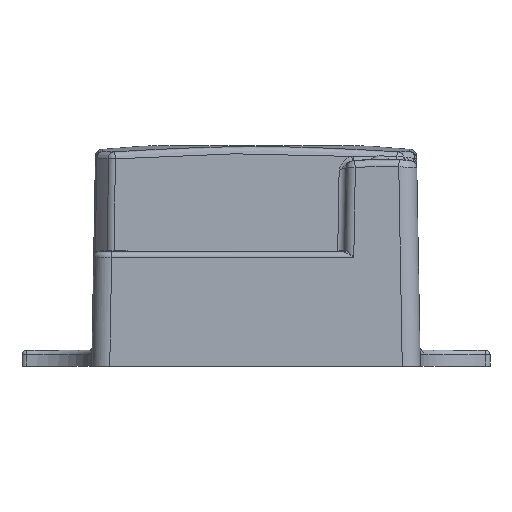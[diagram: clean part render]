
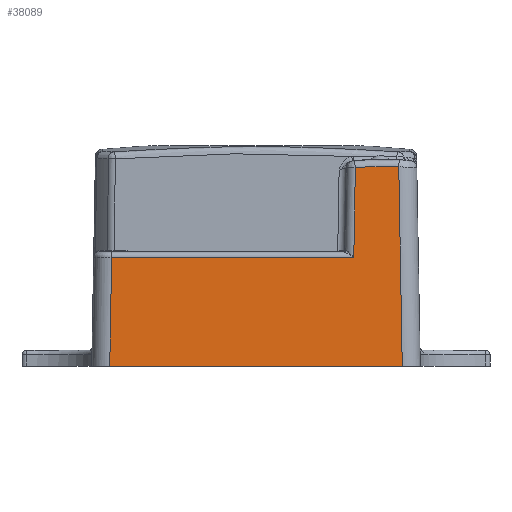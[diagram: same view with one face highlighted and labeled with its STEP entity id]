
A CAD part, left-side view. The second image highlights one B-rep face of the part: STEP entity #38089.
In plain terms, the highlighted planar face has unit normal (-1, 0, 0.018).
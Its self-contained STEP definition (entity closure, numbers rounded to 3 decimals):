
#30649=CARTESIAN_POINT('',(-29.,38.65,0.));
#31036=DIRECTION('',(0.,1.,0.));
#31037=VECTOR('',#31036,26.903);
#31038=CARTESIAN_POINT('',(-28.789,11.535,
12.11));
#31039=LINE('',#31038,#31037);
#31059=DIRECTION('',(0.017,-0.017,1.));
#31060=VECTOR('',#31059,9.946);
#31061=CARTESIAN_POINT('',(-28.789,11.535,
12.11));
#31062=LINE('',#31061,#31060);
#31063=CARTESIAN_POINT('',(-29.11,8.338,
-6.351));
#31064=DIRECTION('',(1.,0.,-0.017));
#31065=DIRECTION('',(0.017,0.106,0.994));
#31066=AXIS2_PLACEMENT_3D('',#31063,#31064,#31065);
#31068=DIRECTION('',(-0.017,-0.017,-1.));
#31069=VECTOR('',#31068,22.164);
#31070=CARTESIAN_POINT('',(-28.613,6.536,
22.157));
#31071=LINE('',#31070,#31069);
#31072=DIRECTION('',(0.,1.,0.));
#31073=VECTOR('',#31072,32.501);
#31074=CARTESIAN_POINT('',(-29.,6.15,
0.));
#31075=LINE('',#31074,#31073);
#31076=DIRECTION('',(0.017,-0.017,1.));
#31077=VECTOR('',#31076,12.114);
#31078=CARTESIAN_POINT('',(-29.,38.65,
0.));
#31079=LINE('',#31078,#31077);
#33522=VERTEX_POINT('',#30649);
#33523=CARTESIAN_POINT('',(-29.,6.15,
0.));
#33524=VERTEX_POINT('',#33523);
#33858=CARTESIAN_POINT('',(-28.615,11.362,
22.053));
#33859=VERTEX_POINT('',#33858);
#33860=CARTESIAN_POINT('',(-28.613,6.536,
22.157));
#33861=VERTEX_POINT('',#33860);
#34001=CARTESIAN_POINT('',(-28.789,11.535,
12.11));
#34002=CARTESIAN_POINT('',(-28.789,38.439,
12.11));
#34003=VERTEX_POINT('',#34001);
#34004=VERTEX_POINT('',#34002);
#38074=CARTESIAN_POINT('',(-29.,42.959,0.));
#38075=DIRECTION('',(-1.,0.,0.017));
#38076=DIRECTION('',(0.,1.,0.));
#38077=AXIS2_PLACEMENT_3D('',#38074,#38075,#38076);
#38078=PLANE('',#38077);
#38079=ORIENTED_EDGE('',*,*,#38065,.F.);
#38081=ORIENTED_EDGE('',*,*,#38080,.T.);
#38082=ORIENTED_EDGE('',*,*,#36615,.T.);
#38084=ORIENTED_EDGE('',*,*,#38083,.T.);
#38085=ORIENTED_EDGE('',*,*,#37670,.T.);
#38086=ORIENTED_EDGE('',*,*,#38041,.T.);
#38087=EDGE_LOOP('',(#38079,#38081,#38082,#38084,#38085,#38086));
#38088=FACE_OUTER_BOUND('',#38087,.F.);
#38089=ADVANCED_FACE('',(#38088),#38078,.T.);
#31067=CIRCLE('',#31066,28.57);
#36615=EDGE_CURVE('',#33859,#33861,#31067,.T.);
#37670=EDGE_CURVE('',#33524,#33522,#31075,.T.);
#38041=EDGE_CURVE('',#33522,#34004,#31079,.T.);
#38065=EDGE_CURVE('',#34003,#34004,#31039,.T.);
#38080=EDGE_CURVE('',#34003,#33859,#31062,.T.);
#38083=EDGE_CURVE('',#33861,#33524,#31071,.T.);
